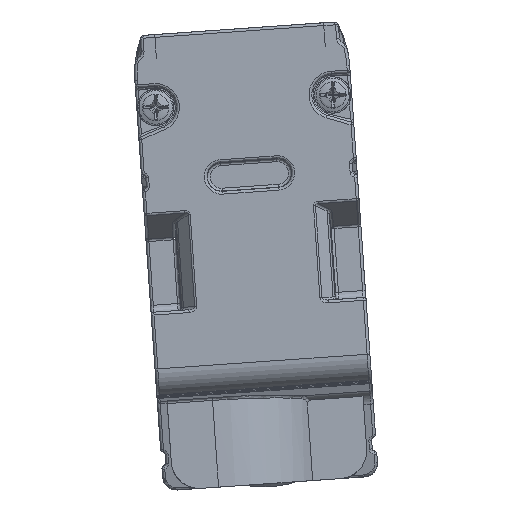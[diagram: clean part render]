
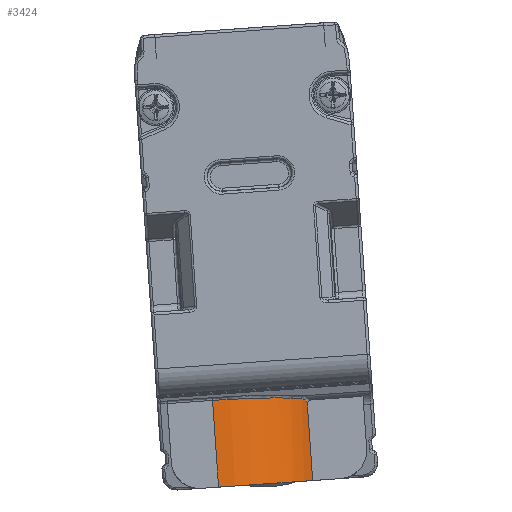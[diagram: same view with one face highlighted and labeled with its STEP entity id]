
A CAD part, front view. The second image highlights one B-rep face of the part: STEP entity #3424.
In plain terms, the highlighted cylindrical face has radius 7.5 mm (diameter 15 mm), a partial arc.
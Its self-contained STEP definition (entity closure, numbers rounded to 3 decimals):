
#606=B_SPLINE_CURVE_WITH_KNOTS('',3,(#32774,#32775,#32776,#32777,#32778,
#32779,#32780),.UNSPECIFIED.,.F.,.F.,(4,3,4),(0.,0.485,1.),.UNSPECIFIED.);
#921=ELLIPSE('',#22585,7.53,7.5);
#1469=CYLINDRICAL_SURFACE('',#22587,7.5);
#2093=CIRCLE('',#22586,7.5);
#3424=ADVANCED_FACE('',(#4825),#1469,.T.);
#4825=FACE_OUTER_BOUND('',#5842,.T.);
#5842=EDGE_LOOP('',(#7740,#7741,#7742,#7743,#7744));
#7740=ORIENTED_EDGE('',*,*,#15776,.T.);
#7741=ORIENTED_EDGE('',*,*,#15777,.T.);
#7742=ORIENTED_EDGE('',*,*,#15778,.T.);
#7743=ORIENTED_EDGE('',*,*,#15779,.T.);
#7744=ORIENTED_EDGE('',*,*,#15780,.F.);
#13153=VERTEX_POINT('',#32772);
#13154=VERTEX_POINT('',#32773);
#13155=VERTEX_POINT('',#32781);
#13156=VERTEX_POINT('',#32783);
#13157=VERTEX_POINT('',#32785);
#15776=EDGE_CURVE('',#13153,#13154,#19093,.T.);
#15777=EDGE_CURVE('',#13154,#13155,#606,.T.);
#15778=EDGE_CURVE('',#13155,#13156,#921,.T.);
#15779=EDGE_CURVE('',#13156,#13157,#19094,.T.);
#15780=EDGE_CURVE('',#13153,#13157,#2093,.T.);
#19093=LINE('',#32771,#20739);
#19094=LINE('',#32784,#20740);
#20739=VECTOR('',#25792,1.);
#20740=VECTOR('',#25795,1.);
#22585=AXIS2_PLACEMENT_3D('',#32782,#25793,#25794);
#22586=AXIS2_PLACEMENT_3D('',#32786,#25796,#25797);
#22587=AXIS2_PLACEMENT_3D('',#32787,#25798,#25799);
#25792=DIRECTION('',(-0.07,0.,0.998));
#25793=DIRECTION('',(0.069,-0.089,-0.994));
#25794=DIRECTION('',(0.006,0.996,-0.089));
#25795=DIRECTION('',(0.07,0.,-0.998));
#25796=DIRECTION('',(0.07,0.,-0.998));
#25797=DIRECTION('',(0.998,0.,0.07));
#25798=DIRECTION('',(0.07,0.,-0.998));
#25799=DIRECTION('',(0.,-1.,0.));
#32771=CARTESIAN_POINT('',(-40.701,-260.597,14.888));
#32772=CARTESIAN_POINT('',(-40.701,-260.597,14.888));
#32773=CARTESIAN_POINT('',(-41.088,-260.597,20.435));
#32774=CARTESIAN_POINT('',(-41.088,-260.597,20.435));
#32775=CARTESIAN_POINT('',(-41.139,-260.686,20.528));
#32776=CARTESIAN_POINT('',(-41.198,-260.793,20.603));
#32777=CARTESIAN_POINT('',(-41.263,-260.905,20.654));
#32778=CARTESIAN_POINT('',(-41.332,-261.024,20.708));
#32779=CARTESIAN_POINT('',(-41.408,-261.152,20.738));
#32780=CARTESIAN_POINT('',(-41.487,-261.278,20.743));
#32781=CARTESIAN_POINT('',(-41.487,-261.278,20.743));
#32782=CARTESIAN_POINT('',(-47.816,-257.318,19.944));
#32783=CARTESIAN_POINT('',(-47.863,-264.818,20.616));
#32784=CARTESIAN_POINT('',(-47.667,-264.818,17.815));
#32785=CARTESIAN_POINT('',(-47.43,-264.818,14.418));
#32786=CARTESIAN_POINT('',(-47.43,-257.318,14.418));
#32787=CARTESIAN_POINT('',(-52.434,-257.318,85.982));
